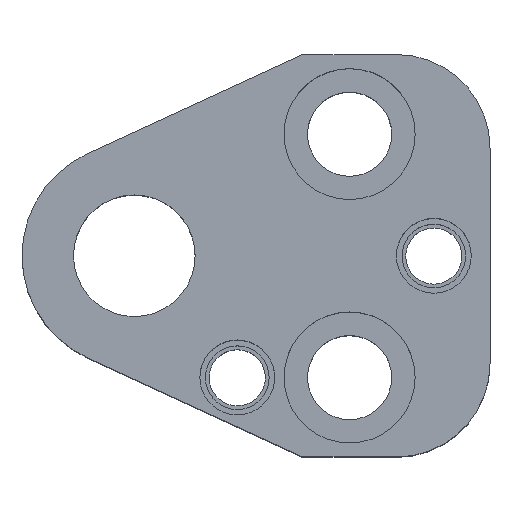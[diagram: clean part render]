
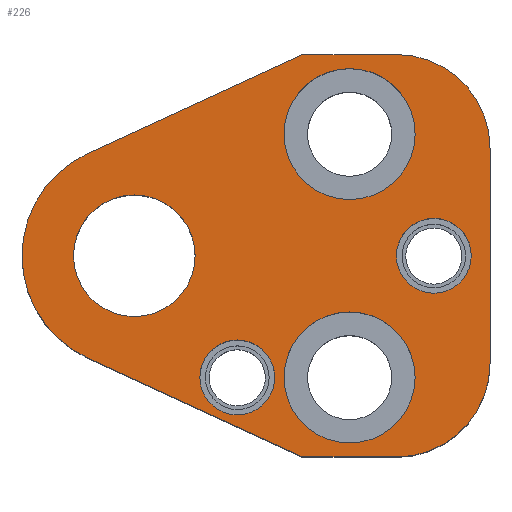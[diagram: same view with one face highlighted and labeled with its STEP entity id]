
A CAD part, top view. The second image highlights one B-rep face of the part: STEP entity #226.
In plain terms, the highlighted planar face has unit normal (0, 0, 1).
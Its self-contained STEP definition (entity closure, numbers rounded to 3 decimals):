
#103=FACE_BOUND('',#319,.T.);
#104=FACE_BOUND('',#320,.T.);
#105=FACE_BOUND('',#321,.T.);
#106=FACE_BOUND('',#322,.T.);
#107=FACE_BOUND('',#323,.T.);
#108=FACE_BOUND('',#324,.T.);
#152=CIRCLE('',#816,10.);
#154=CIRCLE('',#820,10.);
#157=CIRCLE('',#826,12.);
#166=CIRCLE('',#840,7.);
#168=CIRCLE('',#843,7.);
#170=CIRCLE('',#847,7.);
#172=CIRCLE('',#850,7.);
#174=CIRCLE('',#854,4.);
#175=CIRCLE('',#855,4.);
#176=CIRCLE('',#856,4.);
#177=CIRCLE('',#857,4.);
#178=CIRCLE('',#858,6.5);
#179=CIRCLE('',#859,6.5);
#226=ADVANCED_FACE('',(#103,#104,#105,#106,#107,#108),#258,.T.);
#258=PLANE('',#860);
#319=EDGE_LOOP('',(#431,#432,#433,#434,#435,#436,#437,#438));
#320=EDGE_LOOP('',(#439,#440));
#321=EDGE_LOOP('',(#441,#442));
#322=EDGE_LOOP('',(#443,#444));
#323=EDGE_LOOP('',(#445,#446));
#324=EDGE_LOOP('',(#447,#448));
#431=ORIENTED_EDGE('',*,*,#626,.T.);
#432=ORIENTED_EDGE('',*,*,#630,.T.);
#433=ORIENTED_EDGE('',*,*,#633,.T.);
#434=ORIENTED_EDGE('',*,*,#636,.T.);
#435=ORIENTED_EDGE('',*,*,#639,.T.);
#436=ORIENTED_EDGE('',*,*,#642,.T.);
#437=ORIENTED_EDGE('',*,*,#645,.T.);
#438=ORIENTED_EDGE('',*,*,#648,.T.);
#439=ORIENTED_EDGE('',*,*,#673,.F.);
#440=ORIENTED_EDGE('',*,*,#674,.F.);
#441=ORIENTED_EDGE('',*,*,#675,.F.);
#442=ORIENTED_EDGE('',*,*,#676,.F.);
#443=ORIENTED_EDGE('',*,*,#671,.F.);
#444=ORIENTED_EDGE('',*,*,#667,.F.);
#445=ORIENTED_EDGE('',*,*,#665,.F.);
#446=ORIENTED_EDGE('',*,*,#661,.F.);
#447=ORIENTED_EDGE('',*,*,#677,.T.);
#448=ORIENTED_EDGE('',*,*,#678,.T.);
#560=VERTEX_POINT('',#1160);
#561=VERTEX_POINT('',#1162);
#564=VERTEX_POINT('',#1169);
#566=VERTEX_POINT('',#1175);
#568=VERTEX_POINT('',#1181);
#570=VERTEX_POINT('',#1187);
#572=VERTEX_POINT('',#1193);
#574=VERTEX_POINT('',#1199);
#583=VERTEX_POINT('',#1231);
#584=VERTEX_POINT('',#1232);
#587=VERTEX_POINT('',#1244);
#588=VERTEX_POINT('',#1245);
#591=VERTEX_POINT('',#1257);
#592=VERTEX_POINT('',#1258);
#593=VERTEX_POINT('',#1261);
#594=VERTEX_POINT('',#1262);
#595=VERTEX_POINT('',#1265);
#596=VERTEX_POINT('',#1266);
#626=EDGE_CURVE('',#561,#560,#726,.T.);
#630=EDGE_CURVE('',#560,#564,#730,.T.);
#633=EDGE_CURVE('',#564,#566,#152,.T.);
#636=EDGE_CURVE('',#566,#568,#734,.T.);
#639=EDGE_CURVE('',#568,#570,#154,.T.);
#642=EDGE_CURVE('',#570,#572,#738,.T.);
#645=EDGE_CURVE('',#572,#574,#741,.T.);
#648=EDGE_CURVE('',#574,#561,#157,.T.);
#661=EDGE_CURVE('',#583,#584,#166,.T.);
#665=EDGE_CURVE('',#584,#583,#168,.T.);
#667=EDGE_CURVE('',#587,#588,#170,.T.);
#671=EDGE_CURVE('',#588,#587,#172,.T.);
#673=EDGE_CURVE('',#591,#592,#174,.T.);
#674=EDGE_CURVE('',#592,#591,#175,.T.);
#675=EDGE_CURVE('',#593,#594,#176,.T.);
#676=EDGE_CURVE('',#594,#593,#177,.T.);
#677=EDGE_CURVE('',#595,#596,#178,.T.);
#678=EDGE_CURVE('',#596,#595,#179,.T.);
#726=LINE('',#1161,#770);
#730=LINE('',#1170,#774);
#734=LINE('',#1182,#778);
#738=LINE('',#1194,#782);
#741=LINE('',#1200,#785);
#770=VECTOR('',#916,1.);
#774=VECTOR('',#922,1.);
#778=VECTOR('',#934,1.);
#782=VECTOR('',#946,1.);
#785=VECTOR('',#951,1.);
#816=AXIS2_PLACEMENT_3D('',#1176,#927,#928);
#820=AXIS2_PLACEMENT_3D('',#1188,#939,#940);
#826=AXIS2_PLACEMENT_3D('',#1204,#957,#958);
#840=AXIS2_PLACEMENT_3D('',#1230,#989,#990);
#843=AXIS2_PLACEMENT_3D('',#1239,#997,#998);
#847=AXIS2_PLACEMENT_3D('',#1243,#1005,#1006);
#850=AXIS2_PLACEMENT_3D('',#1252,#1013,#1014);
#854=AXIS2_PLACEMENT_3D('',#1256,#1021,#1022);
#855=AXIS2_PLACEMENT_3D('',#1259,#1023,#1024);
#856=AXIS2_PLACEMENT_3D('',#1260,#1025,#1026);
#857=AXIS2_PLACEMENT_3D('',#1263,#1027,#1028);
#858=AXIS2_PLACEMENT_3D('',#1264,#1029,#1030);
#859=AXIS2_PLACEMENT_3D('',#1267,#1031,#1032);
#860=AXIS2_PLACEMENT_3D('',#1268,#1033,#1034);
#916=DIRECTION('',(0.908,-0.418,0.));
#922=DIRECTION('',(1.,0.,0.));
#927=DIRECTION('',(0.,0.,1.));
#928=DIRECTION('',(-0.707,0.707,0.));
#934=DIRECTION('',(0.,1.,0.));
#939=DIRECTION('',(0.,0.,1.));
#940=DIRECTION('',(-0.707,-0.707,0.));
#946=DIRECTION('',(-1.,0.,0.));
#951=DIRECTION('',(-0.908,-0.418,0.));
#957=DIRECTION('',(0.,0.,1.));
#958=DIRECTION('',(1.,0.,0.));
#989=DIRECTION('',(0.,0.,1.));
#990=DIRECTION('',(-1.,0.,0.));
#997=DIRECTION('',(0.,0.,1.));
#998=DIRECTION('',(1.,0.,0.));
#1005=DIRECTION('',(0.,0.,1.));
#1006=DIRECTION('',(-1.,0.,0.));
#1013=DIRECTION('',(0.,0.,1.));
#1014=DIRECTION('',(1.,0.,0.));
#1021=DIRECTION('',(0.,0.,1.));
#1022=DIRECTION('',(1.,0.,0.));
#1023=DIRECTION('',(0.,0.,1.));
#1024=DIRECTION('',(-1.,0.,0.));
#1025=DIRECTION('',(0.,0.,1.));
#1026=DIRECTION('',(1.,0.,0.));
#1027=DIRECTION('',(0.,0.,1.));
#1028=DIRECTION('',(-1.,0.,0.));
#1029=DIRECTION('',(0.,0.,-1.));
#1030=DIRECTION('',(-1.,0.,0.));
#1031=DIRECTION('',(0.,0.,-1.));
#1032=DIRECTION('',(1.,0.,0.));
#1033=DIRECTION('',(0.,0.,1.));
#1034=DIRECTION('',(0.908,-0.418,0.));
#1160=CARTESIAN_POINT('',(18.,-21.5,30.));
#1161=CARTESIAN_POINT('',(18.,-21.5,30.));
#1162=CARTESIAN_POINT('',(-5.019,-10.9,30.));
#1169=CARTESIAN_POINT('',(28.,-21.5,30.));
#1170=CARTESIAN_POINT('',(18.,-21.5,30.));
#1175=CARTESIAN_POINT('',(38.,-11.5,30.));
#1176=CARTESIAN_POINT('',(28.,-11.5,30.));
#1181=CARTESIAN_POINT('',(38.,11.5,30.));
#1182=CARTESIAN_POINT('',(38.,11.5,30.));
#1187=CARTESIAN_POINT('',(28.,21.5,30.));
#1188=CARTESIAN_POINT('',(28.,11.5,30.));
#1193=CARTESIAN_POINT('',(18.,21.5,30.));
#1194=CARTESIAN_POINT('',(18.,21.5,30.));
#1199=CARTESIAN_POINT('',(-5.019,10.9,30.));
#1200=CARTESIAN_POINT('',(18.,21.5,30.));
#1204=CARTESIAN_POINT('',(0.,0.,30.));
#1230=CARTESIAN_POINT('',(23.,-13.,30.));
#1231=CARTESIAN_POINT('',(23.,-20.,30.));
#1232=CARTESIAN_POINT('',(23.,-6.,30.));
#1239=CARTESIAN_POINT('',(23.,-13.,30.));
#1243=CARTESIAN_POINT('',(23.,13.,30.));
#1244=CARTESIAN_POINT('',(23.,6.,30.));
#1245=CARTESIAN_POINT('',(23.,20.,30.));
#1252=CARTESIAN_POINT('',(23.,13.,30.));
#1256=CARTESIAN_POINT('',(32.,0.,30.));
#1257=CARTESIAN_POINT('',(32.,4.,30.));
#1258=CARTESIAN_POINT('',(32.,-4.,30.));
#1259=CARTESIAN_POINT('',(32.,0.,30.));
#1260=CARTESIAN_POINT('',(11.,-13.,30.));
#1261=CARTESIAN_POINT('',(11.,-9.,30.));
#1262=CARTESIAN_POINT('',(11.,-17.,30.));
#1263=CARTESIAN_POINT('',(11.,-13.,30.));
#1264=CARTESIAN_POINT('',(0.,0.,30.));
#1265=CARTESIAN_POINT('',(0.,6.5,30.));
#1266=CARTESIAN_POINT('',(0.,-6.5,30.));
#1267=CARTESIAN_POINT('',(0.,0.,30.));
#1268=CARTESIAN_POINT('',(-5.019,-10.9,30.));
